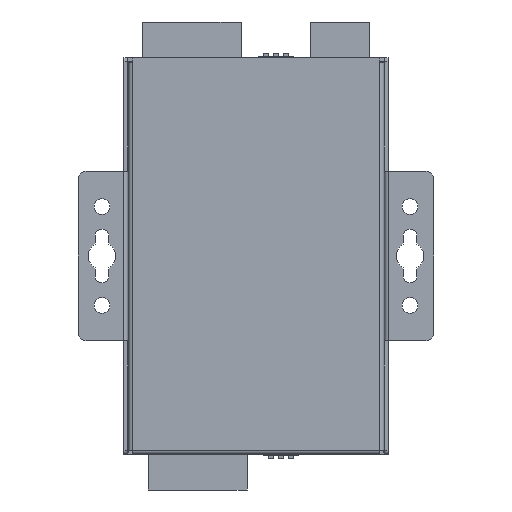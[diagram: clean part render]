
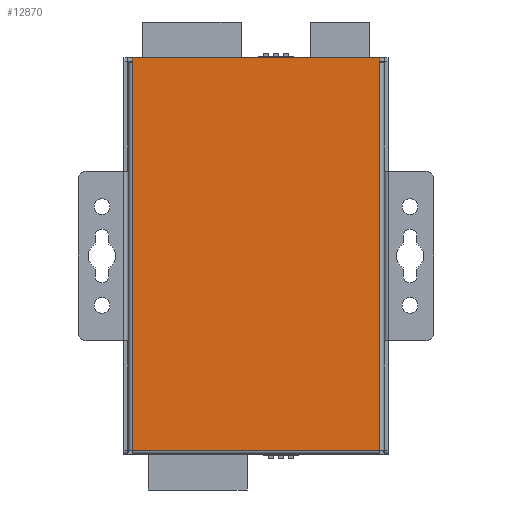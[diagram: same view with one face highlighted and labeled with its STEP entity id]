
A CAD part, front view. The second image highlights one B-rep face of the part: STEP entity #12870.
In plain terms, the highlighted planar face has unit normal (0, -1, 0).
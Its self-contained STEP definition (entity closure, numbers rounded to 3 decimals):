
#1487=DIRECTION('',(0.,0.,1.));
#1488=VECTOR('',#1487,1.15);
#1489=CARTESIAN_POINT('',(-31.35,0.,49.05));
#1490=LINE('',#1489,#1488);
#1503=DIRECTION('',(-1.,0.,0.));
#1504=VECTOR('',#1503,62.7);
#1505=CARTESIAN_POINT('',(31.35,0.,50.2));
#1506=LINE('',#1505,#1504);
#1507=DIRECTION('',(0.,0.,1.));
#1508=VECTOR('',#1507,1.15);
#1509=CARTESIAN_POINT('',(31.35,0.,49.05));
#1510=LINE('',#1509,#1508);
#1515=DIRECTION('',(0.,0.,1.));
#1516=VECTOR('',#1515,98.25);
#1517=CARTESIAN_POINT('',(-31.35,0.,-49.2));
#1518=LINE('',#1517,#1516);
#1925=DIRECTION('',(0.,0.,-1.));
#1926=VECTOR('',#1925,98.25);
#1927=CARTESIAN_POINT('',(31.35,0.,49.05));
#1928=LINE('',#1927,#1926);
#1954=DIRECTION('',(-1.,0.,0.));
#1955=VECTOR('',#1954,62.7);
#1956=CARTESIAN_POINT('',(31.35,0.,-49.2));
#1957=LINE('',#1956,#1955);
#8621=CARTESIAN_POINT('',(31.35,0.,-49.2));
#8622=VERTEX_POINT('',#8621);
#8623=CARTESIAN_POINT('',(-31.35,0.,-49.2));
#8624=VERTEX_POINT('',#8623);
#8633=CARTESIAN_POINT('',(31.35,0.,49.05));
#8634=VERTEX_POINT('',#8633);
#8635=CARTESIAN_POINT('',(-31.35,0.,49.05));
#8636=VERTEX_POINT('',#8635);
#8651=CARTESIAN_POINT('',(31.35,0.,50.2));
#8652=VERTEX_POINT('',#8651);
#8653=CARTESIAN_POINT('',(-31.35,0.,50.2));
#8654=VERTEX_POINT('',#8653);
#12853=CARTESIAN_POINT('',(0.,0.,0.));
#12854=DIRECTION('',(0.,1.,0.));
#12855=DIRECTION('',(1.,0.,0.));
#12856=AXIS2_PLACEMENT_3D('',#12853,#12854,#12855);
#12857=PLANE('',#12856);
#12859=ORIENTED_EDGE('',*,*,#12858,.T.);
#12860=ORIENTED_EDGE('',*,*,#12830,.T.);
#12861=ORIENTED_EDGE('',*,*,#12843,.F.);
#12863=ORIENTED_EDGE('',*,*,#12862,.F.);
#12865=ORIENTED_EDGE('',*,*,#12864,.T.);
#12867=ORIENTED_EDGE('',*,*,#12866,.T.);
#12868=EDGE_LOOP('',(#12859,#12860,#12861,#12863,#12865,#12867));
#12869=FACE_OUTER_BOUND('',#12868,.F.);
#12870=ADVANCED_FACE('',(#12869),#12857,.F.);
#12830=EDGE_CURVE('',#8636,#8654,#1490,.T.);
#12843=EDGE_CURVE('',#8652,#8654,#1506,.T.);
#12858=EDGE_CURVE('',#8624,#8636,#1518,.T.);
#12862=EDGE_CURVE('',#8634,#8652,#1510,.T.);
#12864=EDGE_CURVE('',#8634,#8622,#1928,.T.);
#12866=EDGE_CURVE('',#8622,#8624,#1957,.T.);
